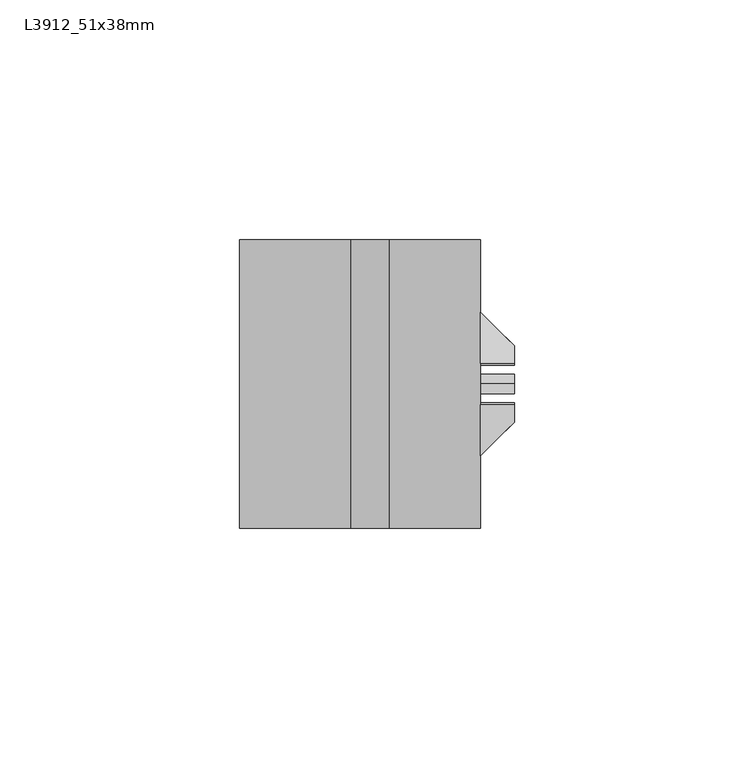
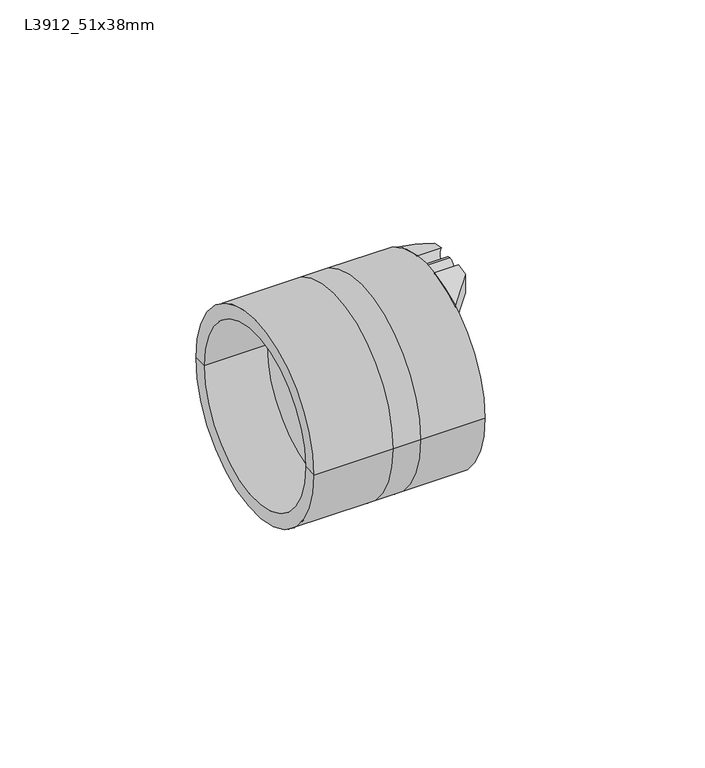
"""IFC4 building model written with IfcOpenShell, lengths in millimetres: pipe fitting geometry, Durapipe_PipeFitting_VulcatheneEnfusion_ReducingCoupler_L39 : L3912_51x38mm."""

import ifcopenshell
import ifcopenshell.guid

model = None  # the IFC model being written
_history = None  # IfcOwnerHistory: only IFC2X3 demands one
_inside = {}  # id of a spatial element -> (the spatial element, [elements in it])
_under = {}  # id of a project, library or spatial element -> (it, [spatial elements below it])
_declared = {}  # id of a project -> (the project, [libraries it declares])
_typed = {}  # id of a type object -> (the type object, [elements of that type])
_made_of = {}  # id of a material, layer set ... -> (it, [elements and type objects made of it])


def new_model(schema):
    """Start an empty IFC model of exactly this schema.

    Asked for "IFC4X3", IfcOpenShell would pick the latest addendum, in which some entities
    have other attributes; the version numbers below select the first issue.
    IFC2X3 requires an IfcOwnerHistory on every rooted entity: one is made here for all.
    """
    global model, _history
    if schema == "IFC4X3":
        model = ifcopenshell.file(schema_version=(4, 3, 0, 0))
    else:
        model = ifcopenshell.file(schema=schema)
    _inside.clear()
    _under.clear()
    _declared.clear()
    _typed.clear()
    _made_of.clear()
    _history = None
    if model.schema == "IFC2X3":
        org = make("IfcOrganization", Name="unknown")
        user = make(
            "IfcPersonAndOrganization",
            ThePerson=make("IfcPerson", FamilyName="unknown"),
            TheOrganization=org,
        )
        app = make(
            "IfcApplication",
            ApplicationDeveloper=org,
            Version="unknown",
            ApplicationFullName="unknown",
            ApplicationIdentifier="unknown",
        )
        _history = make(
            "IfcOwnerHistory",
            OwningUser=user,
            OwningApplication=app,
            ChangeAction="ADDED",
            CreationDate=0,
        )
    return model


def make(cls, **values):
    """One entity of the class cls with the attributes given. An attribute that is None is left unset."""
    return model.create_entity(
        cls, **{name: value for name, value in values.items() if value is not None}
    )


def rooted(cls, **values):
    """An entity with a GlobalId (a new one), such as an element, a storey or a relation."""
    return make(cls, GlobalId=ifcopenshell.guid.new(), OwnerHistory=_history, **values)


def si_unit(unit_type, name, prefix=None):
    """IfcSIUnit, for example si_unit("LENGTHUNIT", "METRE", prefix="MILLI")."""
    return make("IfcSIUnit", UnitType=unit_type, Prefix=prefix, Name=name)


def assignment(units):
    """IfcUnitAssignment: the units of a project."""
    return None if units is None else make("IfcUnitAssignment", Units=units)


def point(xyz):
    """IfcCartesianPoint."""
    return None if xyz is None else make("IfcCartesianPoint", Coordinates=xyz)


def direction(xyz):
    """IfcDirection."""
    return None if xyz is None else make("IfcDirection", DirectionRatios=xyz)


def frame(location, z_axis=None, x_axis=None):
    """IfcAxis2Placement3D, a coordinate frame: its origin and axes. An axis left out is left unset."""
    return make(
        "IfcAxis2Placement3D",
        Location=point(location),
        Axis=direction(z_axis),
        RefDirection=direction(x_axis),
    )


def frame_2d(location, x_axis=None):
    """IfcAxis2Placement2D, a coordinate frame in the plane: its origin and x axis."""
    return make(
        "IfcAxis2Placement2D", Location=point(location), RefDirection=direction(x_axis)
    )


def origin():
    """The frame at (0, 0, 0) with its axes left unset."""
    return frame((0.0, 0.0, 0.0))


def place(relative_to, where):
    """IfcLocalPlacement: puts the frame where relative to a parent placement (None: the world)."""
    return make(
        "IfcLocalPlacement", PlacementRelTo=relative_to, RelativePlacement=where
    )


def context(
    kind, dimensions, precision=None, world=None, true_north=None, identifier=None
):
    """IfcGeometricRepresentationContext, for example the 3D "Model" context."""
    return make(
        "IfcGeometricRepresentationContext",
        ContextIdentifier=identifier,
        ContextType=kind,
        CoordinateSpaceDimension=dimensions,
        Precision=precision,
        WorldCoordinateSystem=world,
        TrueNorth=true_north,
    )


def project(units=None, contexts=None):
    """IfcProject with its units and contexts."""
    return rooted(
        "IfcProject",
        Name="project",
        RepresentationContexts=contexts,
        UnitsInContext=assignment(units),
    )


def spatial(cls, under=None, at=None, **own):
    """A site, building, storey or space (cls), placed at a placement, below another one or the project."""
    s = rooted(cls, ObjectPlacement=at, **own)
    if under is not None:
        _under.setdefault(under.id(), (under, []))[1].append(s)
    return s


def polyline(points):
    """IfcPolyline through the points."""
    return make("IfcPolyline", Points=[point(p) for p in points])


def circle_curve(where, radius):
    """IfcCircle in the frame where."""
    return make("IfcCircle", Position=where, Radius=radius)


def ellipse_curve(where, semi_axis1, semi_axis2):
    """IfcEllipse in the frame where."""
    return make(
        "IfcEllipse", Position=where, SemiAxis1=semi_axis1, SemiAxis2=semi_axis2
    )


def trimmed(basis, trim1, trim2, sense, master):
    """IfcTrimmedCurve: the piece of a basis curve between two trims."""
    return make(
        "IfcTrimmedCurve",
        BasisCurve=basis,
        Trim1=trim1,
        Trim2=trim2,
        SenseAgreement=sense,
        MasterRepresentation=master,
    )


def segment(curve, same_sense, transition):
    """IfcCompositeCurveSegment."""
    return make(
        "IfcCompositeCurveSegment",
        Transition=transition,
        SameSense=same_sense,
        ParentCurve=curve,
    )


def composite_curve(segments, self_intersect=None):
    """IfcCompositeCurve: segments joined end to end."""
    return make("IfcCompositeCurve", Segments=segments, SelfIntersect=self_intersect)


def outline(outer, holes=None, kind="AREA"):
    """IfcArbitraryClosedProfileDef: a profile drawn as a closed curve; with holes, ...WithVoids."""
    if holes is None:
        return make("IfcArbitraryClosedProfileDef", ProfileType=kind, OuterCurve=outer)
    return make(
        "IfcArbitraryProfileDefWithVoids",
        ProfileType=kind,
        OuterCurve=outer,
        InnerCurves=holes,
    )


def extrude(swept, where, along, depth):
    """IfcExtrudedAreaSolid: the profile swept, set in the frame where, extruded along a direction by depth."""
    return make(
        "IfcExtrudedAreaSolid",
        SweptArea=swept,
        Position=where,
        ExtrudedDirection=direction(along),
        Depth=depth,
    )


def shape(context_of_items, identifier, shape_type, items):
    """IfcShapeRepresentation: the items that make up one representation, for example the "Body"."""
    return make(
        "IfcShapeRepresentation",
        ContextOfItems=context_of_items,
        RepresentationIdentifier=identifier,
        RepresentationType=shape_type,
        Items=items,
    )


def source(mapping_origin, context_of_items, identifier, shape_type, items):
    """IfcRepresentationMap: a shape defined once, which mapped items show again and again."""
    return make(
        "IfcRepresentationMap",
        MappingOrigin=mapping_origin,
        MappedRepresentation=shape(context_of_items, identifier, shape_type, items),
    )


def transform(
    local_origin,
    x_axis=None,
    y_axis=None,
    z_axis=None,
    scale=None,
    scale2=None,
    scale3=None,
    uniform=True,
):
    """IfcCartesianTransformationOperator3D, or its non-uniform kind. x_axis, y_axis, z_axis: its Axis1, 2, 3."""
    if uniform:
        return make(
            "IfcCartesianTransformationOperator3D",
            Axis1=direction(x_axis),
            Axis2=direction(y_axis),
            LocalOrigin=point(local_origin),
            Scale=scale,
            Axis3=direction(z_axis),
        )
    return make(
        "IfcCartesianTransformationOperator3DnonUniform",
        Axis1=direction(x_axis),
        Axis2=direction(y_axis),
        LocalOrigin=point(local_origin),
        Scale=scale,
        Axis3=direction(z_axis),
        Scale2=scale2,
        Scale3=scale3,
    )


def mapped(mapping_source, mapping_target):
    """IfcMappedItem: shows the shape of a source again, moved by a transform."""
    return make(
        "IfcMappedItem", MappingSource=mapping_source, MappingTarget=mapping_target
    )


def made_of(thing, what):
    """Note that an element or type object is made of a material, layer set ...; save() writes the relation."""
    if what is not None:
        _made_of.setdefault(what.id(), (what, []))[1].append(thing)
    return thing


def element(
    cls,
    number,
    at=None,
    inside=None,
    cuts=None,
    type_object=None,
    material=None,
    context=None,
    identifier="Body",
    shape_type=None,
    held_by="IfcProductDefinitionShape",
    body=None,
    shapes=None,
    **own,
):
    """One element of the class cls, such as IfcWall. Its Tag is "e" and its number.

    at: its placement. inside: the storey or other place that contains it. cuts: it is an
    opening in that element (IfcRelVoidsElement). A single representation is given by context,
    identifier, shape_type and body (its items); several are given by shapes. held_by: the class
    of the entity that holds the representations. save() writes the other relations.
    """
    e = rooted(cls, Tag="e%d" % number, ObjectPlacement=at, **own)
    if body is not None:
        shapes = [shape(context, identifier, shape_type, body)]
    if shapes is not None:
        e.Representation = make(held_by, Representations=shapes)
    if inside is not None:
        _inside.setdefault(inside.id(), (inside, []))[1].append(e)
    if cuts is not None:
        rooted(
            "IfcRelVoidsElement", RelatingBuildingElement=cuts, RelatedOpeningElement=e
        )
    if type_object is not None:
        _typed.setdefault(type_object.id(), (type_object, []))[1].append(e)
    return made_of(e, material)


def aggregate(whole, parts):
    """IfcRelAggregates: a whole, such as a stair, and the parts it consists of."""
    return rooted("IfcRelAggregates", RelatingObject=whole, RelatedObjects=parts)


def save(model, path):
    """Write the relations noted so far, then the file.

    IfcRelAggregates (storeys below a building ...), IfcRelContainedInSpatialStructure (elements
    in a storey), IfcRelDefinesByType, IfcRelAssociatesMaterial and IfcRelDeclares: one each for
    every whole, place, type object, material and project.
    """
    for whole, parts in _under.values():
        aggregate(whole, parts)
    for where, things in _inside.values():
        rooted(
            "IfcRelContainedInSpatialStructure",
            RelatedElements=things,
            RelatingStructure=where,
        )
    for kind, things in _typed.values():
        rooted("IfcRelDefinesByType", RelatedObjects=things, RelatingType=kind)
    for what, things in _made_of.values():
        rooted("IfcRelAssociatesMaterial", RelatedObjects=things, RelatingMaterial=what)
    for by, libraries in _declared.values():
        rooted("IfcRelDeclares", RelatingContext=by, RelatedDefinitions=libraries)
    model.write(path)


def plane_surface(at):
    """IfcPlane: the flat surface through the origin of the frame at, square to its z axis."""
    return make("IfcPlane", Position=at)


def cylinder_surface(at, radius):
    """IfcCylindricalSurface: all points at the distance radius from the z axis of the frame at."""
    return make("IfcCylindricalSurface", Position=at, Radius=radius)


def revolved_surface(curve, axis_point, axis_direction):
    """IfcSurfaceOfRevolution: the curve turned about the line through axis_point along axis_direction."""
    return make(
        "IfcSurfaceOfRevolution",
        SweptCurve=make("IfcArbitraryOpenProfileDef", ProfileType="CURVE", Curve=curve),
        AxisPosition=make("IfcAxis1Placement", Location=point(axis_point), Axis=direction(axis_direction)),
    )


def advanced_brep(points, edges, surfaces, faces):
    """IfcAdvancedBrep: a solid bounded by faces that lie on surfaces and meet in shared edges.

    An edge is (start, end): straight between two places in points (the first is 0);
    or (start, end, curve); or (start, end, curve, False) where it runs against its curve.
    A face is (place in surfaces, loops), or (place, loops, False) where it looks against
    its surface's normal. A loop lists edges by number (the first is 1), with a minus sign
    where the edge is run from its end to its start. The first loop is the outer one.
    """
    corners = [point(p) for p in points]
    vertices = [make("IfcVertexPoint", VertexGeometry=c) for c in corners]
    made = []
    for start, end, *more in edges:
        made.append(
            make(
                "IfcEdgeCurve",
                EdgeStart=vertices[start],
                EdgeEnd=vertices[end],
                EdgeGeometry=more[0] if more else make("IfcPolyline", Points=[corners[start], corners[end]]),
                SameSense=more[1] if len(more) > 1 else True,
            )
        )
    hull = []
    for where, loops, *sense in faces:
        bounds = []
        for j, loop in enumerate(loops):
            ring = [make("IfcOrientedEdge", EdgeElement=made[abs(k) - 1], Orientation=k > 0) for k in loop]
            bounds.append(
                make(
                    "IfcFaceOuterBound" if j == 0 else "IfcFaceBound",
                    Bound=make("IfcEdgeLoop", EdgeList=ring),
                    Orientation=True,
                )
            )
        hull.append(make("IfcAdvancedFace", Bounds=bounds, FaceSurface=surfaces[where], SameSense=sense[0] if sense else True))
    return make("IfcAdvancedBrep", Outer=make("IfcClosedShell", CfsFaces=hull))


def l3912_51x38mm_b977fdc1(model_context):
    return source(origin(), model_context, "Body", "SolidModel", [
        advanced_brep(
        [(32.25, -3.9287577, 24.1322888), (32.25, -4.3545071, 29.6822888), (32.25, -7.94, 28.9301988), (32.25, -7.94, 23.1248546), (25.15, -15.0, 25.9807621), (25.15, -4.3545071, 29.6822888), (25.15, -3.9287577, 24.1322888), (25.15, -15.0, 19.3080942)],
        [
            (0, 1, circle_curve(frame((32.25, 0.0, 27.225), z_axis=(-1.0, 0.0, 0.0), x_axis=(0.0, 0.0, -1.0)), 5.0)),
            (1, 2, circle_curve(frame((32.25, 0.0, 0.0), z_axis=(1.0, 0.0, 0.0), x_axis=(0.0, 0.0, -1.0)), 30.0)),
            (2, 3),
            (3, 0, circle_curve(frame((32.25, 0.0, 0.0), z_axis=(-1.0, 0.0, 0.0), x_axis=(0.0, 0.0, -1.0)), 24.45)),
            (4, 5, circle_curve(frame((25.15, 0.0, 0.0), z_axis=(-1.0, 0.0, 0.0), x_axis=(0.0, 0.0, -1.0)), 30.0)),
            (5, 6, circle_curve(frame((25.15, 0.0, 27.225), z_axis=(1.0, 0.0, 0.0), x_axis=(0.0, 0.0, -1.0)), 5.0)),
            (6, 7, circle_curve(frame((25.15, 0.0, 0.0), z_axis=(1.0, 0.0, 0.0), x_axis=(0.0, 0.0, -1.0)), 24.45)),
            (7, 4),
            (6, 0),
            (3, 7, ellipse_curve(frame((40.2349858, 0.0, 0.0), z_axis=(0.7051064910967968, -0.7091014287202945, 0.0), x_axis=(-0.7091014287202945, -0.7051064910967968, 0.0)), 34.6756133, 24.45)),
            (4, 2, ellipse_curve(frame((40.2349858, 0.0, 0.0), z_axis=(-0.7051064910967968, 0.7091014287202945, 0.0), x_axis=(0.7091014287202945, 0.7051064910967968, 0.0)), 42.5467647, 30.0)),
            (1, 5),
        ],
        [
            plane_surface(frame((32.25, -15.0, 25.9807621), z_axis=(1.0, 0.0, 0.0), x_axis=(0.0, 0.0, -1.0))),
            plane_surface(frame((25.15, -15.0, 25.9807621), z_axis=(-1.0, 0.0, 0.0), x_axis=(0.0, 0.0, 1.0))),
            revolved_surface(polyline([(15.64645886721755, 0.0, -24.45), (64.82351273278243, 0.0, -24.45)]), (25.15, 0.0, 0.0), (-1.0, 0.0, 0.0)),
            cylinder_surface(frame((25.15, 0.0, 0.0), z_axis=(1.0, 0.0, 0.0), x_axis=(0.0, 0.0, -1.0)), 30.0),
            revolved_surface(polyline([(32.25, 0.0, 22.225), (25.15, 0.0, 22.225)]), (25.15, 0.0, 27.225), (1.0, 0.0, 0.0)),
            plane_surface(frame((25.15, -15.0, -30.0), z_axis=(0.7051064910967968, -0.7091014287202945, 0.0), x_axis=(0.0, 0.0, 1.0))),
        ],
        [
            (0, [[1, 2, 3, 4]]),
            (1, [[5, 6, 7, 8]]),
            (2, [[-7, 9, -4, 10]]),
            (3, [[-5, 11, -2, 12]]),
            (4, [[-1, -9, -6, -12]]),
            (5, [[-3, -11, -8, -10]]),
        ],
    ),
        advanced_brep(
        [(32.25, 4.3545071, 29.6822888), (32.25, 3.9287577, 24.1322888), (32.25, 7.94, 23.1248546), (32.25, 7.94, 28.9301988), (25.15, 4.3545071, 29.6822888), (25.15, 15.0, 25.9807621), (25.15, 15.0, 19.3080942), (25.15, 3.9287577, 24.1322888)],
        [
            (0, 1, circle_curve(frame((32.25, 0.0, 27.225), z_axis=(-1.0, 0.0, 0.0), x_axis=(0.0, 0.0, -1.0)), 5.0)),
            (1, 2, circle_curve(frame((32.25, 0.0, 0.0), z_axis=(-1.0, 0.0, 0.0), x_axis=(0.0, 0.0, -1.0)), 24.45)),
            (2, 3),
            (3, 0, circle_curve(frame((32.25, 0.0, 0.0), z_axis=(1.0, 0.0, 0.0), x_axis=(0.0, 0.0, -1.0)), 30.0)),
            (4, 5, circle_curve(frame((25.15, 0.0, 0.0), z_axis=(-1.0, 0.0, 0.0), x_axis=(0.0, 0.0, -1.0)), 30.0)),
            (5, 6),
            (6, 7, circle_curve(frame((25.15, 0.0, 0.0), z_axis=(1.0, 0.0, 0.0), x_axis=(0.0, 0.0, -1.0)), 24.45)),
            (7, 4, circle_curve(frame((25.15, 0.0, 27.225), z_axis=(1.0, 0.0, 0.0), x_axis=(0.0, 0.0, -1.0)), 5.0)),
            (6, 2, ellipse_curve(frame((40.2349858, 0.0, 0.0), z_axis=(0.7051064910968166, 0.7091014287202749, 0.0), x_axis=(-0.7091014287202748, 0.7051064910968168, 0.0)), 34.6756133, 24.45)),
            (1, 7),
            (4, 0),
            (3, 5, ellipse_curve(frame((40.2349858, 0.0, 0.0), z_axis=(-0.7051064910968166, -0.7091014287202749, 0.0), x_axis=(0.7091014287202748, -0.7051064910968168, 0.0)), 42.5467647, 30.0)),
        ],
        [
            plane_surface(frame((32.25, -15.0, 25.9807621), z_axis=(1.0, 0.0, 0.0), x_axis=(0.0, 0.0, -1.0))),
            plane_surface(frame((25.15, -15.0, 25.9807621), z_axis=(-1.0, 0.0, 0.0), x_axis=(0.0, 0.0, 1.0))),
            revolved_surface(polyline([(15.646458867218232, 0.0, -24.45), (64.82351273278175, 0.0, -24.45)]), (25.15, 0.0, 0.0), (-1.0, 0.0, 0.0)),
            cylinder_surface(frame((25.15, 0.0, 0.0), z_axis=(1.0, 0.0, 0.0), x_axis=(0.0, 0.0, -1.0)), 30.0),
            revolved_surface(polyline([(32.25, 0.0, 22.225), (25.15, 0.0, 22.225)]), (25.15, 0.0, 27.225), (1.0, 0.0, 0.0)),
            plane_surface(frame((32.25, 7.94, -30.0), z_axis=(0.7051064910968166, 0.7091014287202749, 0.0), x_axis=(0.0, 0.0, 1.0))),
        ],
        [
            (0, [[1, 2, 3, 4]]),
            (1, [[5, 6, 7, 8]]),
            (2, [[-7, 9, -2, 10]]),
            (3, [[-5, 11, -4, 12]]),
            (4, [[-1, -11, -8, -10]]),
            (5, [[-3, -9, -6, -12]]),
        ],
    ),
        advanced_brep(
        [(32.25, -4.3545071, -29.6822888), (32.25, -3.9287577, -24.1322888), (32.25, -7.94, -23.1248546), (32.25, -7.94, -28.9301988), (25.15, -4.3545071, -29.6822888), (25.15, -15.0, -25.9807621), (25.15, -15.0, -19.3080942), (25.15, -3.9287577, -24.1322888)],
        [
            (0, 1, circle_curve(frame((32.25, 0.0, -27.225), z_axis=(-1.0, 0.0, 0.0), x_axis=(0.0, 0.0, -1.0)), 5.0)),
            (1, 2, circle_curve(frame((32.25, 0.0, 0.0), z_axis=(-1.0, 0.0, 0.0), x_axis=(0.0, 0.0, -1.0)), 24.45)),
            (2, 3),
            (3, 0, circle_curve(frame((32.25, 0.0, 0.0), z_axis=(1.0, 0.0, 0.0), x_axis=(0.0, 0.0, -1.0)), 30.0)),
            (4, 5, circle_curve(frame((25.15, 0.0, 0.0), z_axis=(-1.0, 0.0, 0.0), x_axis=(0.0, 0.0, -1.0)), 30.0)),
            (5, 6),
            (6, 7, circle_curve(frame((25.15, 0.0, 0.0), z_axis=(1.0, 0.0, 0.0), x_axis=(0.0, 0.0, -1.0)), 24.45)),
            (7, 4, circle_curve(frame((25.15, 0.0, -27.225), z_axis=(1.0, 0.0, 0.0), x_axis=(0.0, 0.0, -1.0)), 5.0)),
            (6, 2, ellipse_curve(frame((40.2349858, 0.0, 0.0), z_axis=(0.7051064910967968, -0.7091014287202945, 0.0), x_axis=(-0.7091014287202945, -0.7051064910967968, 0.0)), 34.6756133, 24.45)),
            (1, 7),
            (4, 0),
            (3, 5, ellipse_curve(frame((40.2349858, 0.0, 0.0), z_axis=(-0.7051064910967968, 0.7091014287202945, 0.0), x_axis=(0.7091014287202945, 0.7051064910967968, 0.0)), 42.5467647, 30.0)),
        ],
        [
            plane_surface(frame((32.25, -15.0, 25.9807621), z_axis=(1.0, 0.0, 0.0), x_axis=(0.0, 0.0, -1.0))),
            plane_surface(frame((25.15, -15.0, 25.9807621), z_axis=(-1.0, 0.0, 0.0), x_axis=(0.0, 0.0, 1.0))),
            revolved_surface(polyline([(15.64645886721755, 0.0, -24.45), (64.82351273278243, 0.0, -24.45)]), (25.15, 0.0, 0.0), (-1.0, 0.0, 0.0)),
            cylinder_surface(frame((25.15, 0.0, 0.0), z_axis=(1.0, 0.0, 0.0), x_axis=(0.0, 0.0, -1.0)), 30.0),
            revolved_surface(polyline([(32.25, 0.0, -32.225), (25.15, 0.0, -32.225)]), (25.15, 0.0, -27.225), (1.0, 0.0, 0.0)),
            plane_surface(frame((25.15, -15.0, -30.0), z_axis=(0.7051064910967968, -0.7091014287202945, 0.0), x_axis=(0.0, 0.0, 1.0))),
        ],
        [
            (0, [[1, 2, 3, 4]]),
            (1, [[5, 6, 7, 8]]),
            (2, [[-7, 9, -2, 10]]),
            (3, [[-5, 11, -4, 12]]),
            (4, [[-1, -11, -8, -10]]),
            (5, [[-3, -9, -6, -12]]),
        ],
    ),
        advanced_brep(
        [(32.25, 3.9287577, -24.1322888), (32.25, 4.3545071, -29.6822888), (32.25, 7.94, -28.9301988), (32.25, 7.94, -23.1248546), (25.15, 15.0, -25.9807621), (25.15, 4.3545071, -29.6822888), (25.15, 3.9287577, -24.1322888), (25.15, 15.0, -19.3080942)],
        [
            (0, 1, circle_curve(frame((32.25, 0.0, -27.225), z_axis=(-1.0, 0.0, 0.0), x_axis=(0.0, 0.0, -1.0)), 5.0)),
            (1, 2, circle_curve(frame((32.25, 0.0, 0.0), z_axis=(1.0, 0.0, 0.0), x_axis=(0.0, 0.0, -1.0)), 30.0)),
            (2, 3),
            (3, 0, circle_curve(frame((32.25, 0.0, 0.0), z_axis=(-1.0, 0.0, 0.0), x_axis=(0.0, 0.0, -1.0)), 24.45)),
            (4, 5, circle_curve(frame((25.15, 0.0, 0.0), z_axis=(-1.0, 0.0, 0.0), x_axis=(0.0, 0.0, -1.0)), 30.0)),
            (5, 6, circle_curve(frame((25.15, 0.0, -27.225), z_axis=(1.0, 0.0, 0.0), x_axis=(0.0, 0.0, -1.0)), 5.0)),
            (6, 7, circle_curve(frame((25.15, 0.0, 0.0), z_axis=(1.0, 0.0, 0.0), x_axis=(0.0, 0.0, -1.0)), 24.45)),
            (7, 4),
            (6, 0),
            (3, 7, ellipse_curve(frame((40.2349858, 0.0, 0.0), z_axis=(0.7051064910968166, 0.7091014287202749, 0.0), x_axis=(-0.7091014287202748, 0.7051064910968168, 0.0)), 34.6756133, 24.45)),
            (4, 2, ellipse_curve(frame((40.2349858, 0.0, 0.0), z_axis=(-0.7051064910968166, -0.7091014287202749, 0.0), x_axis=(0.7091014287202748, -0.7051064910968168, 0.0)), 42.5467647, 30.0)),
            (1, 5),
        ],
        [
            plane_surface(frame((32.25, -15.0, 25.9807621), z_axis=(1.0, 0.0, 0.0), x_axis=(0.0, 0.0, -1.0))),
            plane_surface(frame((25.15, -15.0, 25.9807621), z_axis=(-1.0, 0.0, 0.0), x_axis=(0.0, 0.0, 1.0))),
            revolved_surface(polyline([(15.646458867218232, 0.0, -24.45), (64.82351273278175, 0.0, -24.45)]), (25.15, 0.0, 0.0), (-1.0, 0.0, 0.0)),
            cylinder_surface(frame((25.15, 0.0, 0.0), z_axis=(1.0, 0.0, 0.0), x_axis=(0.0, 0.0, -1.0)), 30.0),
            revolved_surface(polyline([(32.25, 0.0, -32.225), (25.15, 0.0, -32.225)]), (25.15, 0.0, -27.225), (1.0, 0.0, 0.0)),
            plane_surface(frame((32.25, 7.94, -30.0), z_axis=(0.7051064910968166, 0.7091014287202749, 0.0), x_axis=(0.0, 0.0, 1.0))),
        ],
        [
            (0, [[1, 2, 3, 4]]),
            (1, [[5, 6, 7, 8]]),
            (2, [[-7, 9, -4, 10]]),
            (3, [[-5, 11, -2, 12]]),
            (4, [[-1, -9, -6, -12]]),
            (5, [[-3, -11, -8, -10]]),
        ],
    ),
        extrude(outline(composite_curve([segment(trimmed(circle_curve(frame_2d((0.0, 27.225)), 2.0), [point((0.0, 29.225))], [point((0.0, 25.225))], False, "CARTESIAN"), True, "CONTINUOUS"), segment(trimmed(circle_curve(frame_2d((0.0, 27.225)), 2.0), [point((0.0, 25.225))], [point((0.0, 29.225))], False, "CARTESIAN"), True, "CONTINUOUS")], self_intersect=False)), frame((25.15, 0.0, 0.0), z_axis=(1.0, 0.0, 0.0), x_axis=(0.0, 1.0, 0.0)), (0.0, 0.0, 1.0), 7.1),
        extrude(outline(composite_curve([segment(trimmed(circle_curve(frame_2d((0.0, -27.225)), 2.0), [point((0.0, -25.225))], [point((0.0, -29.225))], False, "CARTESIAN"), True, "CONTINUOUS"), segment(trimmed(circle_curve(frame_2d((0.0, -27.225)), 2.0), [point((0.0, -29.225))], [point((0.0, -25.225))], False, "CARTESIAN"), True, "CONTINUOUS")], self_intersect=False)), frame((25.15, 0.0, 0.0), z_axis=(1.0, 0.0, 0.0), x_axis=(0.0, 1.0, 0.0)), (0.0, 0.0, 1.0), 7.1),
        advanced_brep(
        [(-1.85, -30.15, 0.0), (-1.85, 30.15, 0.0), (6.15, 30.15, 0.0), (6.15, -30.15, 0.0), (-25.15, -30.15, 0.0), (-25.15, 30.15, 0.0), (-25.15, -26.0, 0.0), (-25.15, 26.0, 0.0), (-6.65, -26.0, 0.0), (-6.65, 26.0, 0.0), (25.15, -24.3, 0.0), (25.15, 24.3, 0.0), (6.15, 24.3, 0.0), (6.15, -24.3, 0.0), (25.15, -30.15, 0.0), (25.15, 30.15, 0.0), (1.35, -20.5, 0.0), (1.35, 20.5, 0.0), (6.15, -20.5, 0.0), (6.15, 20.5, 0.0)],
        [
            (0, 1, circle_curve(frame((-1.85, 0.0, 0.0), z_axis=(1.0, 0.0, 0.0), x_axis=(0.0, 1.0, 0.0)), 30.15)),
            (1, 2),
            (2, 3, circle_curve(frame((6.15, 0.0, 0.0), z_axis=(-1.0, 0.0, 0.0), x_axis=(0.0, 1.0, 0.0)), 30.15)),
            (3, 0),
            (1, 0, circle_curve(frame((-1.85, 0.0, 0.0), z_axis=(1.0, 0.0, 0.0), x_axis=(0.0, 1.0, 0.0)), 30.15)),
            (3, 2, circle_curve(frame((6.15, 0.0, 0.0), z_axis=(-1.0, 0.0, 0.0), x_axis=(0.0, 1.0, 0.0)), 30.15)),
            (4, 5, circle_curve(frame((-25.15, 0.0, 0.0), z_axis=(1.0, 0.0, 0.0), x_axis=(0.0, 1.0, 0.0)), 30.15)),
            (5, 1),
            (0, 4),
            (5, 4, circle_curve(frame((-25.15, 0.0, 0.0), z_axis=(1.0, 0.0, 0.0), x_axis=(0.0, 1.0, 0.0)), 30.15)),
            (6, 7, circle_curve(frame((-25.15, 0.0, 0.0), z_axis=(1.0, 0.0, 0.0), x_axis=(0.0, 1.0, 0.0)), 26.0)),
            (7, 5),
            (4, 6),
            (7, 6, circle_curve(frame((-25.15, 0.0, 0.0), z_axis=(1.0, 0.0, 0.0), x_axis=(0.0, 1.0, 0.0)), 26.0)),
            (8, 9, circle_curve(frame((-6.65, 0.0, 0.0), z_axis=(1.0, 0.0, 0.0), x_axis=(0.0, 1.0, 0.0)), 26.0)),
            (9, 7),
            (6, 8),
            (9, 8, circle_curve(frame((-6.65, 0.0, 0.0), z_axis=(1.0, 0.0, 0.0), x_axis=(0.0, 1.0, 0.0)), 26.0)),
            (10, 11, circle_curve(frame((25.15, 0.0, 0.0), z_axis=(1.0, 0.0, 0.0), x_axis=(0.0, 1.0, 0.0)), 24.3)),
            (11, 12),
            (12, 13, circle_curve(frame((6.15, 0.0, 0.0), z_axis=(-1.0, 0.0, 0.0), x_axis=(0.0, 1.0, 0.0)), 24.3)),
            (13, 10),
            (11, 10, circle_curve(frame((25.15, 0.0, 0.0), z_axis=(1.0, 0.0, 0.0), x_axis=(0.0, 1.0, 0.0)), 24.3)),
            (13, 12, circle_curve(frame((6.15, 0.0, 0.0), z_axis=(-1.0, 0.0, 0.0), x_axis=(0.0, 1.0, 0.0)), 24.3)),
            (14, 15, circle_curve(frame((25.15, 0.0, 0.0), z_axis=(1.0, 0.0, 0.0), x_axis=(0.0, 1.0, 0.0)), 30.15)),
            (15, 11),
            (10, 14),
            (15, 14, circle_curve(frame((25.15, 0.0, 0.0), z_axis=(1.0, 0.0, 0.0), x_axis=(0.0, 1.0, 0.0)), 30.15)),
            (2, 15),
            (14, 3),
            (16, 17, circle_curve(frame((1.35, 0.0, 0.0), z_axis=(1.0, 0.0, 0.0), x_axis=(0.0, 1.0, 0.0)), 20.5)),
            (17, 9),
            (8, 16),
            (17, 16, circle_curve(frame((1.35, 0.0, 0.0), z_axis=(1.0, 0.0, 0.0), x_axis=(0.0, 1.0, 0.0)), 20.5)),
            (18, 19, circle_curve(frame((6.15, 0.0, 0.0), z_axis=(1.0, 0.0, 0.0), x_axis=(0.0, 1.0, 0.0)), 20.5)),
            (19, 17),
            (16, 18),
            (19, 18, circle_curve(frame((6.15, 0.0, 0.0), z_axis=(1.0, 0.0, 0.0), x_axis=(0.0, 1.0, 0.0)), 20.5)),
            (12, 19),
            (18, 13),
        ],
        [
            cylinder_surface(frame((1554.6518184, 0.0, 0.0), z_axis=(-1.0, 0.0, 0.0), x_axis=(0.0, 1.0, 0.0)), 30.15),
            plane_surface(frame((-25.15, 0.0, 0.0), z_axis=(-1.0, 0.0, 0.0), x_axis=(0.0, 1.0, 0.0))),
            revolved_surface(polyline([(-25.15000000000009, 26.0, 0.0), (-6.650000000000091, 26.0, 0.0)]), (1554.6518184, 0.0, 0.0), (-1.0, 0.0, 0.0)),
            revolved_surface(polyline([(6.150000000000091, 24.3, 0.0), (25.15000000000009, 24.3, 0.0)]), (1554.6518184, 0.0, 0.0), (-1.0, 0.0, 0.0)),
            plane_surface(frame((25.15, 0.0, 0.0), z_axis=(1.0, 0.0, 0.0), x_axis=(0.0, 1.0, 0.0))),
            revolved_surface(polyline([(-6.65, 26.0, 0.0), (1.35, 20.5, 0.0)]), (1554.6518184, 0.0, 0.0), (-1.0, 0.0, 0.0)),
            revolved_surface(polyline([(1.349999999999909, 20.5, 0.0), (6.150000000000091, 20.5, 0.0)]), (1554.6518184, 0.0, 0.0), (-1.0, 0.0, 0.0)),
            plane_surface(frame((6.15, 0.0, 0.0), z_axis=(1.0, 0.0, 0.0), x_axis=(0.0, 1.0, 0.0))),
        ],
        [
            (0, [[1, 2, 3, 4]]),
            (0, [[5, -4, 6, -2]]),
            (0, [[7, 8, -1, 9]]),
            (0, [[10, -9, -5, -8]]),
            (1, [[11, 12, -7, 13]]),
            (1, [[14, -13, -10, -12]]),
            (2, [[15, 16, -11, 17]]),
            (2, [[18, -17, -14, -16]]),
            (3, [[19, 20, 21, 22]]),
            (3, [[23, -22, 24, -20]]),
            (4, [[25, 26, -19, 27]]),
            (4, [[28, -27, -23, -26]]),
            (0, [[-3, 29, -25, 30]]),
            (0, [[-6, -30, -28, -29]]),
            (5, [[31, 32, -15, 33]]),
            (5, [[34, -33, -18, -32]]),
            (6, [[35, 36, -31, 37]]),
            (6, [[38, -37, -34, -36]]),
            (7, [[-21, 39, -35, 40]]),
            (7, [[-24, -40, -38, -39]]),
        ],
    ),
    ])


if __name__ == "__main__":
    model = new_model("IFC4")
    model_context = context("Model", 3, world=origin())
    ifc_project = project(units=[si_unit("LENGTHUNIT", "METRE", prefix="MILLI")], contexts=[model_context])
    site = spatial("IfcSite", under=ifc_project)
    building = spatial("IfcBuilding", under=site)
    placement = place(None, origin())
    l3912_51x38mm_shape = l3912_51x38mm_b977fdc1(model_context)
    element("IfcPipeFitting", 1, ObjectType="Durapipe_PipeFitting_VulcatheneEnfusion_ReducingCoupler_L39 : L3912_51x38mm", at=placement, inside=building, context=model_context, shape_type="MappedRepresentation", body=[
        mapped(l3912_51x38mm_shape, transform((0.0, 0.0, 0.0), x_axis=(1.0, 0.0, 0.0), y_axis=(0.0, 1.0, 0.0), z_axis=(0.0, 0.0, 1.0))),
    ])
    save(model, "model.ifc")
